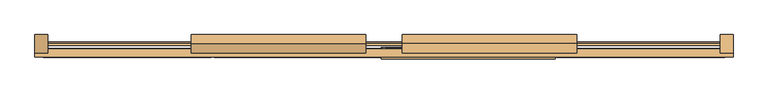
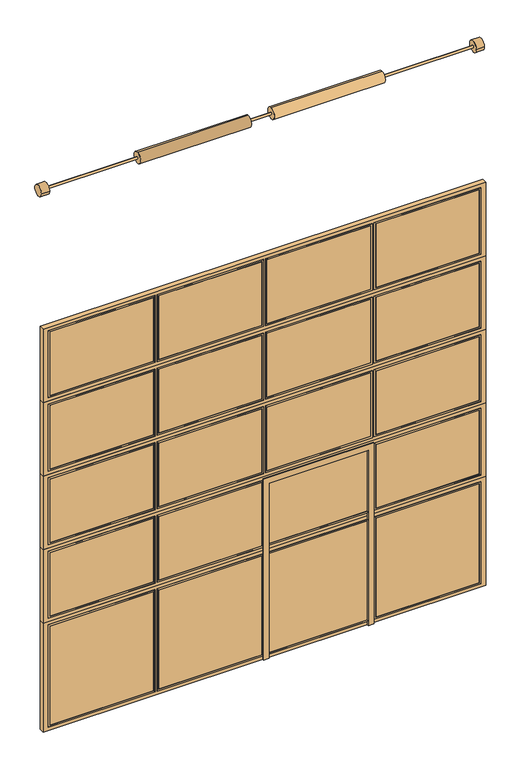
"""IFC4 building model written with IfcOpenShell, lengths in millimetres: door geometry, Vrata Nassau 9000G : Vrata Nassau 9000G."""

from ifc_helpers import new_model, si_unit, point, frame, frame_2d, origin, place, context, project, spatial, polyline, circle_curve, trimmed, segment, composite_curve, outline, extrude, faceted_brep, source, transform, mapped, element, save


def door_389f7659(model_context):
    return source(origin(), model_context, "Body", "SolidModel", [
        extrude(outline(polyline([(1660.0, 944.1666667), (1660.0, -15.8333333), (0.0, -15.8333333), (0.0, 34.1666667), (1610.0, 34.1666667), (1610.0, 894.1666667), (0.0, 894.1666667), (0.0, 944.1666667), (1660.0, 944.1666667)])), frame((0.0, 212.5, 0.0), z_axis=(0.0, 1.0, 0.0), x_axis=(0.0, 0.0, 1.0)), (0.0, 0.0, 1.0), 10.0),
        extrude(outline(polyline([(0.0, -15.8333333), (0.0, 34.1666667), (1610.0, 34.1666667), (1610.0, 894.1666667), (0.0, 894.1666667), (0.0, 944.1666667), (1660.0, 944.1666667), (1660.0, -15.8333333), (0.0, -15.8333333)])), frame((0.0, 266.5, 0.0), z_axis=(0.0, 1.0, 0.0), x_axis=(0.0, 0.0, 1.0)), (0.0, 0.0, 1.0), 10.0),
        extrude(outline(polyline([(921.1111111, 230.5), (921.1111111, 225.5), (22.7777778, 225.5), (22.7777778, 230.5), (921.1111111, 230.5)])), frame((0.0, 0.0, 3070.0), z_axis=(0.0, 0.0, 1.0), x_axis=(1.0, 0.0, 0.0)), (0.0, 0.0, 1.0), 585.0),
        faceted_brep([(12.7777778, 225.5, 3060.0), (12.7777778, 225.5, 3665.0), (12.7777778, 269.5, 3665.0), (12.7777778, 269.5, 3060.0), (7.7777778, 223.5, 3055.0), (7.7777778, 223.5, 3670.0), (7.7777778, 225.5, 3670.0), (7.7777778, 225.5, 3055.0), (22.7777778, 271.5, 3070.0), (22.7777778, 271.5, 3655.0), (22.7777778, 223.5, 3655.0), (22.7777778, 223.5, 3070.0), (7.7777778, 269.5, 3055.0), (7.7777778, 269.5, 3670.0), (7.7777778, 271.5, 3670.0), (7.7777778, 271.5, 3055.0), (931.1111111, 225.5, 3665.0), (931.1111111, 269.5, 3665.0), (936.1111111, 223.5, 3670.0), (936.1111111, 225.5, 3670.0), (921.1111111, 271.5, 3655.0), (921.1111111, 223.5, 3655.0), (936.1111111, 269.5, 3670.0), (936.1111111, 271.5, 3670.0), (931.1111111, 225.5, 3060.0), (931.1111111, 269.5, 3060.0), (936.1111111, 223.5, 3055.0), (936.1111111, 225.5, 3055.0), (921.1111111, 271.5, 3070.0), (921.1111111, 223.5, 3070.0), (936.1111111, 269.5, 3055.0), (936.1111111, 271.5, 3055.0)], [[[0, 1, 2, 3]], [[4, 5, 6, 7]], [[8, 9, 10, 11]], [[12, 13, 14, 15]], [[1, 16, 17, 2]], [[5, 18, 19, 6]], [[9, 20, 21, 10]], [[13, 22, 23, 14]], [[16, 24, 25, 17]], [[18, 26, 27, 19]], [[20, 28, 29, 21]], [[22, 30, 31, 23]], [[13, 12, 30, 22], [3, 2, 17, 25]], [[24, 0, 3, 25]], [[7, 6, 19, 27], [1, 0, 24, 16]], [[26, 4, 7, 27]], [[5, 4, 26, 18], [11, 10, 21, 29]], [[28, 8, 11, 29]], [[15, 14, 23, 31], [9, 8, 28, 20]], [[30, 12, 15, 31]]]),
        extrude(outline(polyline([(-22.7777778, 230.5), (-22.7777778, 225.5), (-921.1111111, 225.5), (-921.1111111, 230.5), (-22.7777778, 230.5)])), frame((0.0, 0.0, 3070.0), z_axis=(0.0, 0.0, 1.0), x_axis=(1.0, 0.0, 0.0)), (0.0, 0.0, 1.0), 585.0),
        faceted_brep([(-931.1111111, 225.5, 3060.0), (-931.1111111, 225.5, 3665.0), (-931.1111111, 269.5, 3665.0), (-931.1111111, 269.5, 3060.0), (-936.1111111, 223.5, 3055.0), (-936.1111111, 223.5, 3670.0), (-936.1111111, 225.5, 3670.0), (-936.1111111, 225.5, 3055.0), (-921.1111111, 271.5, 3070.0), (-921.1111111, 271.5, 3655.0), (-921.1111111, 223.5, 3655.0), (-921.1111111, 223.5, 3070.0), (-936.1111111, 269.5, 3055.0), (-936.1111111, 269.5, 3670.0), (-936.1111111, 271.5, 3670.0), (-936.1111111, 271.5, 3055.0), (-12.7777778, 225.5, 3665.0), (-12.7777778, 269.5, 3665.0), (-7.7777778, 223.5, 3670.0), (-7.7777778, 225.5, 3670.0), (-22.7777778, 271.5, 3655.0), (-22.7777778, 223.5, 3655.0), (-7.7777778, 269.5, 3670.0), (-7.7777778, 271.5, 3670.0), (-12.7777778, 225.5, 3060.0), (-12.7777778, 269.5, 3060.0), (-7.7777778, 223.5, 3055.0), (-7.7777778, 225.5, 3055.0), (-22.7777778, 271.5, 3070.0), (-22.7777778, 223.5, 3070.0), (-7.7777778, 269.5, 3055.0), (-7.7777778, 271.5, 3055.0)], [[[0, 1, 2, 3]], [[4, 5, 6, 7]], [[8, 9, 10, 11]], [[12, 13, 14, 15]], [[1, 16, 17, 2]], [[5, 18, 19, 6]], [[9, 20, 21, 10]], [[13, 22, 23, 14]], [[16, 24, 25, 17]], [[18, 26, 27, 19]], [[20, 28, 29, 21]], [[22, 30, 31, 23]], [[13, 12, 30, 22], [3, 2, 17, 25]], [[24, 0, 3, 25]], [[7, 6, 19, 27], [1, 0, 24, 16]], [[26, 4, 7, 27]], [[5, 4, 26, 18], [11, 10, 21, 29]], [[28, 8, 11, 29]], [[15, 14, 23, 31], [9, 8, 28, 20]], [[30, 12, 15, 31]]]),
        extrude(outline(polyline([(1865.0, 230.5), (1865.0, 225.5), (966.6666667, 225.5), (966.6666667, 230.5), (1865.0, 230.5)])), frame((0.0, 0.0, 3070.0), z_axis=(0.0, 0.0, 1.0), x_axis=(1.0, 0.0, 0.0)), (0.0, 0.0, 1.0), 585.0),
        faceted_brep([(956.6666667, 225.5, 3060.0), (956.6666667, 225.5, 3665.0), (956.6666667, 269.5, 3665.0), (956.6666667, 269.5, 3060.0), (951.6666667, 223.5, 3055.0), (951.6666667, 223.5, 3670.0), (951.6666667, 225.5, 3670.0), (951.6666667, 225.5, 3055.0), (966.6666667, 271.5, 3070.0), (966.6666667, 271.5, 3655.0), (966.6666667, 223.5, 3655.0), (966.6666667, 223.5, 3070.0), (951.6666667, 269.5, 3055.0), (951.6666667, 269.5, 3670.0), (951.6666667, 271.5, 3670.0), (951.6666667, 271.5, 3055.0), (1875.0, 225.5, 3665.0), (1875.0, 269.5, 3665.0), (1880.0, 223.5, 3670.0), (1880.0, 225.5, 3670.0), (1865.0, 271.5, 3655.0), (1865.0, 223.5, 3655.0), (1880.0, 269.5, 3670.0), (1880.0, 271.5, 3670.0), (1875.0, 225.5, 3060.0), (1875.0, 269.5, 3060.0), (1880.0, 223.5, 3055.0), (1880.0, 225.5, 3055.0), (1865.0, 271.5, 3070.0), (1865.0, 223.5, 3070.0), (1880.0, 269.5, 3055.0), (1880.0, 271.5, 3055.0)], [[[0, 1, 2, 3]], [[4, 5, 6, 7]], [[8, 9, 10, 11]], [[12, 13, 14, 15]], [[1, 16, 17, 2]], [[5, 18, 19, 6]], [[9, 20, 21, 10]], [[13, 22, 23, 14]], [[16, 24, 25, 17]], [[18, 26, 27, 19]], [[20, 28, 29, 21]], [[22, 30, 31, 23]], [[13, 12, 30, 22], [3, 2, 17, 25]], [[24, 0, 3, 25]], [[7, 6, 19, 27], [1, 0, 24, 16]], [[26, 4, 7, 27]], [[5, 4, 26, 18], [11, 10, 21, 29]], [[28, 8, 11, 29]], [[15, 14, 23, 31], [9, 8, 28, 20]], [[30, 12, 15, 31]]]),
        extrude(outline(polyline([(-966.6666667, 230.5), (-966.6666667, 225.5), (-1865.0, 225.5), (-1865.0, 230.5), (-966.6666667, 230.5)])), frame((0.0, 0.0, 3070.0), z_axis=(0.0, 0.0, 1.0), x_axis=(1.0, 0.0, 0.0)), (0.0, 0.0, 1.0), 585.0),
        faceted_brep([(-1875.0, 225.5, 3060.0), (-1875.0, 225.5, 3665.0), (-1875.0, 269.5, 3665.0), (-1875.0, 269.5, 3060.0), (-1880.0, 223.5, 3055.0), (-1880.0, 223.5, 3670.0), (-1880.0, 225.5, 3670.0), (-1880.0, 225.5, 3055.0), (-1865.0, 271.5, 3070.0), (-1865.0, 271.5, 3655.0), (-1865.0, 223.5, 3655.0), (-1865.0, 223.5, 3070.0), (-1880.0, 269.5, 3055.0), (-1880.0, 269.5, 3670.0), (-1880.0, 271.5, 3670.0), (-1880.0, 271.5, 3055.0), (-956.6666667, 225.5, 3665.0), (-956.6666667, 269.5, 3665.0), (-951.6666667, 223.5, 3670.0), (-951.6666667, 225.5, 3670.0), (-966.6666667, 271.5, 3655.0), (-966.6666667, 223.5, 3655.0), (-951.6666667, 269.5, 3670.0), (-951.6666667, 271.5, 3670.0), (-956.6666667, 225.5, 3060.0), (-956.6666667, 269.5, 3060.0), (-951.6666667, 223.5, 3055.0), (-951.6666667, 225.5, 3055.0), (-966.6666667, 271.5, 3070.0), (-966.6666667, 223.5, 3070.0), (-951.6666667, 269.5, 3055.0), (-951.6666667, 271.5, 3055.0)], [[[0, 1, 2, 3]], [[4, 5, 6, 7]], [[8, 9, 10, 11]], [[12, 13, 14, 15]], [[1, 16, 17, 2]], [[5, 18, 19, 6]], [[9, 20, 21, 10]], [[13, 22, 23, 14]], [[16, 24, 25, 17]], [[18, 26, 27, 19]], [[20, 28, 29, 21]], [[22, 30, 31, 23]], [[13, 12, 30, 22], [3, 2, 17, 25]], [[24, 0, 3, 25]], [[7, 6, 19, 27], [1, 0, 24, 16]], [[26, 4, 7, 27]], [[5, 4, 26, 18], [11, 10, 21, 29]], [[28, 8, 11, 29]], [[15, 14, 23, 31], [9, 8, 28, 20]], [[30, 12, 15, 31]]]),
        extrude(outline(polyline([(3025.0, -1925.0), (3025.0, 1925.0), (3700.0, 1925.0), (3700.0, -1925.0), (3025.0, -1925.0)]), holes=[polyline([(3667.5, 1875.0), (3060.0, 1875.0), (3060.0, 956.6666667), (3667.5, 956.6666667), (3667.5, 1875.0)]), polyline([(3667.5, -956.6666667), (3060.0, -956.6666667), (3060.0, -1875.0), (3667.5, -1875.0), (3667.5, -956.6666667)]), polyline([(3667.5, -12.7777778), (3060.0, -12.7777778), (3060.0, -931.1111111), (3667.5, -931.1111111), (3667.5, -12.7777778)]), polyline([(3667.5, 931.1111111), (3060.0, 931.1111111), (3060.0, 12.7777778), (3667.5, 12.7777778), (3667.5, 931.1111111)])]), frame((0.0, 225.5, 0.0), z_axis=(0.0, 1.0, 0.0), x_axis=(0.0, 0.0, 1.0)), (0.0, 0.0, 1.0), 44.0),
        extrude(outline(polyline([(921.1111111, 230.5), (921.1111111, 225.5), (22.7777778, 225.5), (22.7777778, 230.5), (921.1111111, 230.5)])), frame((0.0, 0.0, 2395.0), z_axis=(0.0, 0.0, 1.0), x_axis=(1.0, 0.0, 0.0)), (0.0, 0.0, 1.0), 585.0),
        faceted_brep([(12.7777778, 225.5, 2385.0), (12.7777778, 225.5, 2990.0), (12.7777778, 269.5, 2990.0), (12.7777778, 269.5, 2385.0), (7.7777778, 223.5, 2380.0), (7.7777778, 223.5, 2995.0), (7.7777778, 225.5, 2995.0), (7.7777778, 225.5, 2380.0), (22.7777778, 271.5, 2395.0), (22.7777778, 271.5, 2980.0), (22.7777778, 223.5, 2980.0), (22.7777778, 223.5, 2395.0), (7.7777778, 269.5, 2380.0), (7.7777778, 269.5, 2995.0), (7.7777778, 271.5, 2995.0), (7.7777778, 271.5, 2380.0), (931.1111111, 225.5, 2990.0), (931.1111111, 269.5, 2990.0), (936.1111111, 223.5, 2995.0), (936.1111111, 225.5, 2995.0), (921.1111111, 271.5, 2980.0), (921.1111111, 223.5, 2980.0), (936.1111111, 269.5, 2995.0), (936.1111111, 271.5, 2995.0), (931.1111111, 225.5, 2385.0), (931.1111111, 269.5, 2385.0), (936.1111111, 223.5, 2380.0), (936.1111111, 225.5, 2380.0), (921.1111111, 271.5, 2395.0), (921.1111111, 223.5, 2395.0), (936.1111111, 269.5, 2380.0), (936.1111111, 271.5, 2380.0)], [[[0, 1, 2, 3]], [[4, 5, 6, 7]], [[8, 9, 10, 11]], [[12, 13, 14, 15]], [[1, 16, 17, 2]], [[5, 18, 19, 6]], [[9, 20, 21, 10]], [[13, 22, 23, 14]], [[16, 24, 25, 17]], [[18, 26, 27, 19]], [[20, 28, 29, 21]], [[22, 30, 31, 23]], [[13, 12, 30, 22], [3, 2, 17, 25]], [[24, 0, 3, 25]], [[7, 6, 19, 27], [1, 0, 24, 16]], [[26, 4, 7, 27]], [[5, 4, 26, 18], [11, 10, 21, 29]], [[28, 8, 11, 29]], [[15, 14, 23, 31], [9, 8, 28, 20]], [[30, 12, 15, 31]]]),
        extrude(outline(polyline([(-22.7777778, 230.5), (-22.7777778, 225.5), (-921.1111111, 225.5), (-921.1111111, 230.5), (-22.7777778, 230.5)])), frame((0.0, 0.0, 2395.0), z_axis=(0.0, 0.0, 1.0), x_axis=(1.0, 0.0, 0.0)), (0.0, 0.0, 1.0), 585.0),
        faceted_brep([(-931.1111111, 225.5, 2385.0), (-931.1111111, 225.5, 2990.0), (-931.1111111, 269.5, 2990.0), (-931.1111111, 269.5, 2385.0), (-936.1111111, 223.5, 2380.0), (-936.1111111, 223.5, 2995.0), (-936.1111111, 225.5, 2995.0), (-936.1111111, 225.5, 2380.0), (-921.1111111, 271.5, 2395.0), (-921.1111111, 271.5, 2980.0), (-921.1111111, 223.5, 2980.0), (-921.1111111, 223.5, 2395.0), (-936.1111111, 269.5, 2380.0), (-936.1111111, 269.5, 2995.0), (-936.1111111, 271.5, 2995.0), (-936.1111111, 271.5, 2380.0), (-12.7777778, 225.5, 2990.0), (-12.7777778, 269.5, 2990.0), (-7.7777778, 223.5, 2995.0), (-7.7777778, 225.5, 2995.0), (-22.7777778, 271.5, 2980.0), (-22.7777778, 223.5, 2980.0), (-7.7777778, 269.5, 2995.0), (-7.7777778, 271.5, 2995.0), (-12.7777778, 225.5, 2385.0), (-12.7777778, 269.5, 2385.0), (-7.7777778, 223.5, 2380.0), (-7.7777778, 225.5, 2380.0), (-22.7777778, 271.5, 2395.0), (-22.7777778, 223.5, 2395.0), (-7.7777778, 269.5, 2380.0), (-7.7777778, 271.5, 2380.0)], [[[0, 1, 2, 3]], [[4, 5, 6, 7]], [[8, 9, 10, 11]], [[12, 13, 14, 15]], [[1, 16, 17, 2]], [[5, 18, 19, 6]], [[9, 20, 21, 10]], [[13, 22, 23, 14]], [[16, 24, 25, 17]], [[18, 26, 27, 19]], [[20, 28, 29, 21]], [[22, 30, 31, 23]], [[13, 12, 30, 22], [3, 2, 17, 25]], [[24, 0, 3, 25]], [[7, 6, 19, 27], [1, 0, 24, 16]], [[26, 4, 7, 27]], [[5, 4, 26, 18], [11, 10, 21, 29]], [[28, 8, 11, 29]], [[15, 14, 23, 31], [9, 8, 28, 20]], [[30, 12, 15, 31]]]),
        extrude(outline(polyline([(1865.0, 230.5), (1865.0, 225.5), (966.6666667, 225.5), (966.6666667, 230.5), (1865.0, 230.5)])), frame((0.0, 0.0, 2395.0), z_axis=(0.0, 0.0, 1.0), x_axis=(1.0, 0.0, 0.0)), (0.0, 0.0, 1.0), 585.0),
        faceted_brep([(956.6666667, 225.5, 2385.0), (956.6666667, 225.5, 2990.0), (956.6666667, 269.5, 2990.0), (956.6666667, 269.5, 2385.0), (951.6666667, 223.5, 2380.0), (951.6666667, 223.5, 2995.0), (951.6666667, 225.5, 2995.0), (951.6666667, 225.5, 2380.0), (966.6666667, 271.5, 2395.0), (966.6666667, 271.5, 2980.0), (966.6666667, 223.5, 2980.0), (966.6666667, 223.5, 2395.0), (951.6666667, 269.5, 2380.0), (951.6666667, 269.5, 2995.0), (951.6666667, 271.5, 2995.0), (951.6666667, 271.5, 2380.0), (1875.0, 225.5, 2990.0), (1875.0, 269.5, 2990.0), (1880.0, 223.5, 2995.0), (1880.0, 225.5, 2995.0), (1865.0, 271.5, 2980.0), (1865.0, 223.5, 2980.0), (1880.0, 269.5, 2995.0), (1880.0, 271.5, 2995.0), (1875.0, 225.5, 2385.0), (1875.0, 269.5, 2385.0), (1880.0, 223.5, 2380.0), (1880.0, 225.5, 2380.0), (1865.0, 271.5, 2395.0), (1865.0, 223.5, 2395.0), (1880.0, 269.5, 2380.0), (1880.0, 271.5, 2380.0)], [[[0, 1, 2, 3]], [[4, 5, 6, 7]], [[8, 9, 10, 11]], [[12, 13, 14, 15]], [[1, 16, 17, 2]], [[5, 18, 19, 6]], [[9, 20, 21, 10]], [[13, 22, 23, 14]], [[16, 24, 25, 17]], [[18, 26, 27, 19]], [[20, 28, 29, 21]], [[22, 30, 31, 23]], [[13, 12, 30, 22], [3, 2, 17, 25]], [[24, 0, 3, 25]], [[7, 6, 19, 27], [1, 0, 24, 16]], [[26, 4, 7, 27]], [[5, 4, 26, 18], [11, 10, 21, 29]], [[28, 8, 11, 29]], [[15, 14, 23, 31], [9, 8, 28, 20]], [[30, 12, 15, 31]]]),
        extrude(outline(polyline([(-966.6666667, 230.5), (-966.6666667, 225.5), (-1865.0, 225.5), (-1865.0, 230.5), (-966.6666667, 230.5)])), frame((0.0, 0.0, 2395.0), z_axis=(0.0, 0.0, 1.0), x_axis=(1.0, 0.0, 0.0)), (0.0, 0.0, 1.0), 585.0),
        faceted_brep([(-1875.0, 225.5, 2385.0), (-1875.0, 225.5, 2990.0), (-1875.0, 269.5, 2990.0), (-1875.0, 269.5, 2385.0), (-1880.0, 223.5, 2380.0), (-1880.0, 223.5, 2995.0), (-1880.0, 225.5, 2995.0), (-1880.0, 225.5, 2380.0), (-1865.0, 271.5, 2395.0), (-1865.0, 271.5, 2980.0), (-1865.0, 223.5, 2980.0), (-1865.0, 223.5, 2395.0), (-1880.0, 269.5, 2380.0), (-1880.0, 269.5, 2995.0), (-1880.0, 271.5, 2995.0), (-1880.0, 271.5, 2380.0), (-956.6666667, 225.5, 2990.0), (-956.6666667, 269.5, 2990.0), (-951.6666667, 223.5, 2995.0), (-951.6666667, 225.5, 2995.0), (-966.6666667, 271.5, 2980.0), (-966.6666667, 223.5, 2980.0), (-951.6666667, 269.5, 2995.0), (-951.6666667, 271.5, 2995.0), (-956.6666667, 225.5, 2385.0), (-956.6666667, 269.5, 2385.0), (-951.6666667, 223.5, 2380.0), (-951.6666667, 225.5, 2380.0), (-966.6666667, 271.5, 2395.0), (-966.6666667, 223.5, 2395.0), (-951.6666667, 269.5, 2380.0), (-951.6666667, 271.5, 2380.0)], [[[0, 1, 2, 3]], [[4, 5, 6, 7]], [[8, 9, 10, 11]], [[12, 13, 14, 15]], [[1, 16, 17, 2]], [[5, 18, 19, 6]], [[9, 20, 21, 10]], [[13, 22, 23, 14]], [[16, 24, 25, 17]], [[18, 26, 27, 19]], [[20, 28, 29, 21]], [[22, 30, 31, 23]], [[13, 12, 30, 22], [3, 2, 17, 25]], [[24, 0, 3, 25]], [[7, 6, 19, 27], [1, 0, 24, 16]], [[26, 4, 7, 27]], [[5, 4, 26, 18], [11, 10, 21, 29]], [[28, 8, 11, 29]], [[15, 14, 23, 31], [9, 8, 28, 20]], [[30, 12, 15, 31]]]),
        extrude(outline(polyline([(2350.0, -1925.0), (2350.0, 1925.0), (3025.0, 1925.0), (3025.0, -1925.0), (2350.0, -1925.0)]), holes=[polyline([(2992.5, 1875.0), (2385.0, 1875.0), (2385.0, 956.6666667), (2992.5, 956.6666667), (2992.5, 1875.0)]), polyline([(2992.5, -956.6666667), (2385.0, -956.6666667), (2385.0, -1875.0), (2992.5, -1875.0), (2992.5, -956.6666667)]), polyline([(2992.5, -12.7777778), (2385.0, -12.7777778), (2385.0, -931.1111111), (2992.5, -931.1111111), (2992.5, -12.7777778)]), polyline([(2992.5, 931.1111111), (2385.0, 931.1111111), (2385.0, 12.7777778), (2992.5, 12.7777778), (2992.5, 931.1111111)])]), frame((0.0, 225.5, 0.0), z_axis=(0.0, 1.0, 0.0), x_axis=(0.0, 0.0, 1.0)), (0.0, 0.0, 1.0), 44.0),
        extrude(outline(polyline([(921.1111111, 230.5), (921.1111111, 225.5), (22.7777778, 225.5), (22.7777778, 230.5), (921.1111111, 230.5)])), frame((0.0, 0.0, 1720.0), z_axis=(0.0, 0.0, 1.0), x_axis=(1.0, 0.0, 0.0)), (0.0, 0.0, 1.0), 585.0),
        faceted_brep([(12.7777778, 225.5, 1710.0), (12.7777778, 225.5, 2315.0), (12.7777778, 269.5, 2315.0), (12.7777778, 269.5, 1710.0), (7.7777778, 223.5, 1705.0), (7.7777778, 223.5, 2320.0), (7.7777778, 225.5, 2320.0), (7.7777778, 225.5, 1705.0), (22.7777778, 271.5, 1720.0), (22.7777778, 271.5, 2305.0), (22.7777778, 223.5, 2305.0), (22.7777778, 223.5, 1720.0), (7.7777778, 269.5, 1705.0), (7.7777778, 269.5, 2320.0), (7.7777778, 271.5, 2320.0), (7.7777778, 271.5, 1705.0), (931.1111111, 225.5, 2315.0), (931.1111111, 269.5, 2315.0), (936.1111111, 223.5, 2320.0), (936.1111111, 225.5, 2320.0), (921.1111111, 271.5, 2305.0), (921.1111111, 223.5, 2305.0), (936.1111111, 269.5, 2320.0), (936.1111111, 271.5, 2320.0), (931.1111111, 225.5, 1710.0), (931.1111111, 269.5, 1710.0), (936.1111111, 223.5, 1705.0), (936.1111111, 225.5, 1705.0), (921.1111111, 271.5, 1720.0), (921.1111111, 223.5, 1720.0), (936.1111111, 269.5, 1705.0), (936.1111111, 271.5, 1705.0)], [[[0, 1, 2, 3]], [[4, 5, 6, 7]], [[8, 9, 10, 11]], [[12, 13, 14, 15]], [[1, 16, 17, 2]], [[5, 18, 19, 6]], [[9, 20, 21, 10]], [[13, 22, 23, 14]], [[16, 24, 25, 17]], [[18, 26, 27, 19]], [[20, 28, 29, 21]], [[22, 30, 31, 23]], [[13, 12, 30, 22], [3, 2, 17, 25]], [[24, 0, 3, 25]], [[7, 6, 19, 27], [1, 0, 24, 16]], [[26, 4, 7, 27]], [[5, 4, 26, 18], [11, 10, 21, 29]], [[28, 8, 11, 29]], [[15, 14, 23, 31], [9, 8, 28, 20]], [[30, 12, 15, 31]]]),
        extrude(outline(polyline([(-22.7777778, 230.5), (-22.7777778, 225.5), (-921.1111111, 225.5), (-921.1111111, 230.5), (-22.7777778, 230.5)])), frame((0.0, 0.0, 1720.0), z_axis=(0.0, 0.0, 1.0), x_axis=(1.0, 0.0, 0.0)), (0.0, 0.0, 1.0), 585.0),
        faceted_brep([(-931.1111111, 225.5, 1710.0), (-931.1111111, 225.5, 2315.0), (-931.1111111, 269.5, 2315.0), (-931.1111111, 269.5, 1710.0), (-936.1111111, 223.5, 1705.0), (-936.1111111, 223.5, 2320.0), (-936.1111111, 225.5, 2320.0), (-936.1111111, 225.5, 1705.0), (-921.1111111, 271.5, 1720.0), (-921.1111111, 271.5, 2305.0), (-921.1111111, 223.5, 2305.0), (-921.1111111, 223.5, 1720.0), (-936.1111111, 269.5, 1705.0), (-936.1111111, 269.5, 2320.0), (-936.1111111, 271.5, 2320.0), (-936.1111111, 271.5, 1705.0), (-12.7777778, 225.5, 2315.0), (-12.7777778, 269.5, 2315.0), (-7.7777778, 223.5, 2320.0), (-7.7777778, 225.5, 2320.0), (-22.7777778, 271.5, 2305.0), (-22.7777778, 223.5, 2305.0), (-7.7777778, 269.5, 2320.0), (-7.7777778, 271.5, 2320.0), (-12.7777778, 225.5, 1710.0), (-12.7777778, 269.5, 1710.0), (-7.7777778, 223.5, 1705.0), (-7.7777778, 225.5, 1705.0), (-22.7777778, 271.5, 1720.0), (-22.7777778, 223.5, 1720.0), (-7.7777778, 269.5, 1705.0), (-7.7777778, 271.5, 1705.0)], [[[0, 1, 2, 3]], [[4, 5, 6, 7]], [[8, 9, 10, 11]], [[12, 13, 14, 15]], [[1, 16, 17, 2]], [[5, 18, 19, 6]], [[9, 20, 21, 10]], [[13, 22, 23, 14]], [[16, 24, 25, 17]], [[18, 26, 27, 19]], [[20, 28, 29, 21]], [[22, 30, 31, 23]], [[13, 12, 30, 22], [3, 2, 17, 25]], [[24, 0, 3, 25]], [[7, 6, 19, 27], [1, 0, 24, 16]], [[26, 4, 7, 27]], [[5, 4, 26, 18], [11, 10, 21, 29]], [[28, 8, 11, 29]], [[15, 14, 23, 31], [9, 8, 28, 20]], [[30, 12, 15, 31]]]),
        extrude(outline(polyline([(1865.0, 230.5), (1865.0, 225.5), (966.6666667, 225.5), (966.6666667, 230.5), (1865.0, 230.5)])), frame((0.0, 0.0, 1720.0), z_axis=(0.0, 0.0, 1.0), x_axis=(1.0, 0.0, 0.0)), (0.0, 0.0, 1.0), 585.0),
        faceted_brep([(956.6666667, 225.5, 1710.0), (956.6666667, 225.5, 2315.0), (956.6666667, 269.5, 2315.0), (956.6666667, 269.5, 1710.0), (951.6666667, 223.5, 1705.0), (951.6666667, 223.5, 2320.0), (951.6666667, 225.5, 2320.0), (951.6666667, 225.5, 1705.0), (966.6666667, 271.5, 1720.0), (966.6666667, 271.5, 2305.0), (966.6666667, 223.5, 2305.0), (966.6666667, 223.5, 1720.0), (951.6666667, 269.5, 1705.0), (951.6666667, 269.5, 2320.0), (951.6666667, 271.5, 2320.0), (951.6666667, 271.5, 1705.0), (1875.0, 225.5, 2315.0), (1875.0, 269.5, 2315.0), (1880.0, 223.5, 2320.0), (1880.0, 225.5, 2320.0), (1865.0, 271.5, 2305.0), (1865.0, 223.5, 2305.0), (1880.0, 269.5, 2320.0), (1880.0, 271.5, 2320.0), (1875.0, 225.5, 1710.0), (1875.0, 269.5, 1710.0), (1880.0, 223.5, 1705.0), (1880.0, 225.5, 1705.0), (1865.0, 271.5, 1720.0), (1865.0, 223.5, 1720.0), (1880.0, 269.5, 1705.0), (1880.0, 271.5, 1705.0)], [[[0, 1, 2, 3]], [[4, 5, 6, 7]], [[8, 9, 10, 11]], [[12, 13, 14, 15]], [[1, 16, 17, 2]], [[5, 18, 19, 6]], [[9, 20, 21, 10]], [[13, 22, 23, 14]], [[16, 24, 25, 17]], [[18, 26, 27, 19]], [[20, 28, 29, 21]], [[22, 30, 31, 23]], [[13, 12, 30, 22], [3, 2, 17, 25]], [[24, 0, 3, 25]], [[7, 6, 19, 27], [1, 0, 24, 16]], [[26, 4, 7, 27]], [[5, 4, 26, 18], [11, 10, 21, 29]], [[28, 8, 11, 29]], [[15, 14, 23, 31], [9, 8, 28, 20]], [[30, 12, 15, 31]]]),
        extrude(outline(polyline([(-966.6666667, 230.5), (-966.6666667, 225.5), (-1865.0, 225.5), (-1865.0, 230.5), (-966.6666667, 230.5)])), frame((0.0, 0.0, 1720.0), z_axis=(0.0, 0.0, 1.0), x_axis=(1.0, 0.0, 0.0)), (0.0, 0.0, 1.0), 585.0),
        faceted_brep([(-1875.0, 225.5, 1710.0), (-1875.0, 225.5, 2315.0), (-1875.0, 269.5, 2315.0), (-1875.0, 269.5, 1710.0), (-1880.0, 223.5, 1705.0), (-1880.0, 223.5, 2320.0), (-1880.0, 225.5, 2320.0), (-1880.0, 225.5, 1705.0), (-1865.0, 271.5, 1720.0), (-1865.0, 271.5, 2305.0), (-1865.0, 223.5, 2305.0), (-1865.0, 223.5, 1720.0), (-1880.0, 269.5, 1705.0), (-1880.0, 269.5, 2320.0), (-1880.0, 271.5, 2320.0), (-1880.0, 271.5, 1705.0), (-956.6666667, 225.5, 2315.0), (-956.6666667, 269.5, 2315.0), (-951.6666667, 223.5, 2320.0), (-951.6666667, 225.5, 2320.0), (-966.6666667, 271.5, 2305.0), (-966.6666667, 223.5, 2305.0), (-951.6666667, 269.5, 2320.0), (-951.6666667, 271.5, 2320.0), (-956.6666667, 225.5, 1710.0), (-956.6666667, 269.5, 1710.0), (-951.6666667, 223.5, 1705.0), (-951.6666667, 225.5, 1705.0), (-966.6666667, 271.5, 1720.0), (-966.6666667, 223.5, 1720.0), (-951.6666667, 269.5, 1705.0), (-951.6666667, 271.5, 1705.0)], [[[0, 1, 2, 3]], [[4, 5, 6, 7]], [[8, 9, 10, 11]], [[12, 13, 14, 15]], [[1, 16, 17, 2]], [[5, 18, 19, 6]], [[9, 20, 21, 10]], [[13, 22, 23, 14]], [[16, 24, 25, 17]], [[18, 26, 27, 19]], [[20, 28, 29, 21]], [[22, 30, 31, 23]], [[13, 12, 30, 22], [3, 2, 17, 25]], [[24, 0, 3, 25]], [[7, 6, 19, 27], [1, 0, 24, 16]], [[26, 4, 7, 27]], [[5, 4, 26, 18], [11, 10, 21, 29]], [[28, 8, 11, 29]], [[15, 14, 23, 31], [9, 8, 28, 20]], [[30, 12, 15, 31]]]),
        extrude(outline(polyline([(1675.0, -1925.0), (1675.0, 1925.0), (2350.0, 1925.0), (2350.0, -1925.0), (1675.0, -1925.0)]), holes=[polyline([(2317.5, 1875.0), (1710.0, 1875.0), (1710.0, 956.6666667), (2317.5, 956.6666667), (2317.5, 1875.0)]), polyline([(2317.5, -956.6666667), (1710.0, -956.6666667), (1710.0, -1875.0), (2317.5, -1875.0), (2317.5, -956.6666667)]), polyline([(2317.5, -12.7777778), (1710.0, -12.7777778), (1710.0, -931.1111111), (2317.5, -931.1111111), (2317.5, -12.7777778)]), polyline([(2317.5, 931.1111111), (1710.0, 931.1111111), (1710.0, 12.7777778), (2317.5, 12.7777778), (2317.5, 931.1111111)])]), frame((0.0, 225.5, 0.0), z_axis=(0.0, 1.0, 0.0), x_axis=(0.0, 0.0, 1.0)), (0.0, 0.0, 1.0), 44.0),
        extrude(outline(polyline([(921.1111111, 230.5), (921.1111111, 225.5), (22.7777778, 225.5), (22.7777778, 230.5), (921.1111111, 230.5)])), frame((0.0, 0.0, 1045.0), z_axis=(0.0, 0.0, 1.0), x_axis=(1.0, 0.0, 0.0)), (0.0, 0.0, 1.0), 585.0),
        faceted_brep([(12.7777778, 225.5, 1035.0), (12.7777778, 225.5, 1640.0), (12.7777778, 269.5, 1640.0), (12.7777778, 269.5, 1035.0), (7.7777778, 223.5, 1030.0), (7.7777778, 223.5, 1645.0), (7.7777778, 225.5, 1645.0), (7.7777778, 225.5, 1030.0), (22.7777778, 271.5, 1045.0), (22.7777778, 271.5, 1630.0), (22.7777778, 223.5, 1630.0), (22.7777778, 223.5, 1045.0), (7.7777778, 269.5, 1030.0), (7.7777778, 269.5, 1645.0), (7.7777778, 271.5, 1645.0), (7.7777778, 271.5, 1030.0), (931.1111111, 225.5, 1640.0), (931.1111111, 269.5, 1640.0), (936.1111111, 223.5, 1645.0), (936.1111111, 225.5, 1645.0), (921.1111111, 271.5, 1630.0), (921.1111111, 223.5, 1630.0), (936.1111111, 269.5, 1645.0), (936.1111111, 271.5, 1645.0), (931.1111111, 225.5, 1035.0), (931.1111111, 269.5, 1035.0), (936.1111111, 223.5, 1030.0), (936.1111111, 225.5, 1030.0), (921.1111111, 271.5, 1045.0), (921.1111111, 223.5, 1045.0), (936.1111111, 269.5, 1030.0), (936.1111111, 271.5, 1030.0)], [[[0, 1, 2, 3]], [[4, 5, 6, 7]], [[8, 9, 10, 11]], [[12, 13, 14, 15]], [[1, 16, 17, 2]], [[5, 18, 19, 6]], [[9, 20, 21, 10]], [[13, 22, 23, 14]], [[16, 24, 25, 17]], [[18, 26, 27, 19]], [[20, 28, 29, 21]], [[22, 30, 31, 23]], [[13, 12, 30, 22], [3, 2, 17, 25]], [[24, 0, 3, 25]], [[7, 6, 19, 27], [1, 0, 24, 16]], [[26, 4, 7, 27]], [[5, 4, 26, 18], [11, 10, 21, 29]], [[28, 8, 11, 29]], [[15, 14, 23, 31], [9, 8, 28, 20]], [[30, 12, 15, 31]]]),
        extrude(outline(polyline([(-22.7777778, 230.5), (-22.7777778, 225.5), (-921.1111111, 225.5), (-921.1111111, 230.5), (-22.7777778, 230.5)])), frame((0.0, 0.0, 1045.0), z_axis=(0.0, 0.0, 1.0), x_axis=(1.0, 0.0, 0.0)), (0.0, 0.0, 1.0), 585.0),
        faceted_brep([(-931.1111111, 225.5, 1035.0), (-931.1111111, 225.5, 1640.0), (-931.1111111, 269.5, 1640.0), (-931.1111111, 269.5, 1035.0), (-936.1111111, 223.5, 1030.0), (-936.1111111, 223.5, 1645.0), (-936.1111111, 225.5, 1645.0), (-936.1111111, 225.5, 1030.0), (-921.1111111, 271.5, 1045.0), (-921.1111111, 271.5, 1630.0), (-921.1111111, 223.5, 1630.0), (-921.1111111, 223.5, 1045.0), (-936.1111111, 269.5, 1030.0), (-936.1111111, 269.5, 1645.0), (-936.1111111, 271.5, 1645.0), (-936.1111111, 271.5, 1030.0), (-12.7777778, 225.5, 1640.0), (-12.7777778, 269.5, 1640.0), (-7.7777778, 223.5, 1645.0), (-7.7777778, 225.5, 1645.0), (-22.7777778, 271.5, 1630.0), (-22.7777778, 223.5, 1630.0), (-7.7777778, 269.5, 1645.0), (-7.7777778, 271.5, 1645.0), (-12.7777778, 225.5, 1035.0), (-12.7777778, 269.5, 1035.0), (-7.7777778, 223.5, 1030.0), (-7.7777778, 225.5, 1030.0), (-22.7777778, 271.5, 1045.0), (-22.7777778, 223.5, 1045.0), (-7.7777778, 269.5, 1030.0), (-7.7777778, 271.5, 1030.0)], [[[0, 1, 2, 3]], [[4, 5, 6, 7]], [[8, 9, 10, 11]], [[12, 13, 14, 15]], [[1, 16, 17, 2]], [[5, 18, 19, 6]], [[9, 20, 21, 10]], [[13, 22, 23, 14]], [[16, 24, 25, 17]], [[18, 26, 27, 19]], [[20, 28, 29, 21]], [[22, 30, 31, 23]], [[13, 12, 30, 22], [3, 2, 17, 25]], [[24, 0, 3, 25]], [[7, 6, 19, 27], [1, 0, 24, 16]], [[26, 4, 7, 27]], [[5, 4, 26, 18], [11, 10, 21, 29]], [[28, 8, 11, 29]], [[15, 14, 23, 31], [9, 8, 28, 20]], [[30, 12, 15, 31]]]),
        extrude(outline(polyline([(1865.0, 230.5), (1865.0, 225.5), (966.6666667, 225.5), (966.6666667, 230.5), (1865.0, 230.5)])), frame((0.0, 0.0, 1045.0), z_axis=(0.0, 0.0, 1.0), x_axis=(1.0, 0.0, 0.0)), (0.0, 0.0, 1.0), 585.0),
        faceted_brep([(956.6666667, 225.5, 1035.0), (956.6666667, 225.5, 1640.0), (956.6666667, 269.5, 1640.0), (956.6666667, 269.5, 1035.0), (951.6666667, 223.5, 1030.0), (951.6666667, 223.5, 1645.0), (951.6666667, 225.5, 1645.0), (951.6666667, 225.5, 1030.0), (966.6666667, 271.5, 1045.0), (966.6666667, 271.5, 1630.0), (966.6666667, 223.5, 1630.0), (966.6666667, 223.5, 1045.0), (951.6666667, 269.5, 1030.0), (951.6666667, 269.5, 1645.0), (951.6666667, 271.5, 1645.0), (951.6666667, 271.5, 1030.0), (1875.0, 225.5, 1640.0), (1875.0, 269.5, 1640.0), (1880.0, 223.5, 1645.0), (1880.0, 225.5, 1645.0), (1865.0, 271.5, 1630.0), (1865.0, 223.5, 1630.0), (1880.0, 269.5, 1645.0), (1880.0, 271.5, 1645.0), (1875.0, 225.5, 1035.0), (1875.0, 269.5, 1035.0), (1880.0, 223.5, 1030.0), (1880.0, 225.5, 1030.0), (1865.0, 271.5, 1045.0), (1865.0, 223.5, 1045.0), (1880.0, 269.5, 1030.0), (1880.0, 271.5, 1030.0)], [[[0, 1, 2, 3]], [[4, 5, 6, 7]], [[8, 9, 10, 11]], [[12, 13, 14, 15]], [[1, 16, 17, 2]], [[5, 18, 19, 6]], [[9, 20, 21, 10]], [[13, 22, 23, 14]], [[16, 24, 25, 17]], [[18, 26, 27, 19]], [[20, 28, 29, 21]], [[22, 30, 31, 23]], [[13, 12, 30, 22], [3, 2, 17, 25]], [[24, 0, 3, 25]], [[7, 6, 19, 27], [1, 0, 24, 16]], [[26, 4, 7, 27]], [[5, 4, 26, 18], [11, 10, 21, 29]], [[28, 8, 11, 29]], [[15, 14, 23, 31], [9, 8, 28, 20]], [[30, 12, 15, 31]]]),
        extrude(outline(polyline([(-966.6666667, 230.5), (-966.6666667, 225.5), (-1865.0, 225.5), (-1865.0, 230.5), (-966.6666667, 230.5)])), frame((0.0, 0.0, 1045.0), z_axis=(0.0, 0.0, 1.0), x_axis=(1.0, 0.0, 0.0)), (0.0, 0.0, 1.0), 585.0),
        faceted_brep([(-1875.0, 225.5, 1035.0), (-1875.0, 225.5, 1640.0), (-1875.0, 269.5, 1640.0), (-1875.0, 269.5, 1035.0), (-1880.0, 223.5, 1030.0), (-1880.0, 223.5, 1645.0), (-1880.0, 225.5, 1645.0), (-1880.0, 225.5, 1030.0), (-1865.0, 271.5, 1045.0), (-1865.0, 271.5, 1630.0), (-1865.0, 223.5, 1630.0), (-1865.0, 223.5, 1045.0), (-1880.0, 269.5, 1030.0), (-1880.0, 269.5, 1645.0), (-1880.0, 271.5, 1645.0), (-1880.0, 271.5, 1030.0), (-956.6666667, 225.5, 1640.0), (-956.6666667, 269.5, 1640.0), (-951.6666667, 223.5, 1645.0), (-951.6666667, 225.5, 1645.0), (-966.6666667, 271.5, 1630.0), (-966.6666667, 223.5, 1630.0), (-951.6666667, 269.5, 1645.0), (-951.6666667, 271.5, 1645.0), (-956.6666667, 225.5, 1035.0), (-956.6666667, 269.5, 1035.0), (-951.6666667, 223.5, 1030.0), (-951.6666667, 225.5, 1030.0), (-966.6666667, 271.5, 1045.0), (-966.6666667, 223.5, 1045.0), (-951.6666667, 269.5, 1030.0), (-951.6666667, 271.5, 1030.0)], [[[0, 1, 2, 3]], [[4, 5, 6, 7]], [[8, 9, 10, 11]], [[12, 13, 14, 15]], [[1, 16, 17, 2]], [[5, 18, 19, 6]], [[9, 20, 21, 10]], [[13, 22, 23, 14]], [[16, 24, 25, 17]], [[18, 26, 27, 19]], [[20, 28, 29, 21]], [[22, 30, 31, 23]], [[13, 12, 30, 22], [3, 2, 17, 25]], [[24, 0, 3, 25]], [[7, 6, 19, 27], [1, 0, 24, 16]], [[26, 4, 7, 27]], [[5, 4, 26, 18], [11, 10, 21, 29]], [[28, 8, 11, 29]], [[15, 14, 23, 31], [9, 8, 28, 20]], [[30, 12, 15, 31]]]),
        extrude(outline(polyline([(1000.0, -1925.0), (1000.0, 1925.0), (1675.0, 1925.0), (1675.0, -1925.0), (1000.0, -1925.0)]), holes=[polyline([(1642.5, 1875.0), (1035.0, 1875.0), (1035.0, 956.6666667), (1642.5, 956.6666667), (1642.5, 1875.0)]), polyline([(1642.5, -956.6666667), (1035.0, -956.6666667), (1035.0, -1875.0), (1642.5, -1875.0), (1642.5, -956.6666667)]), polyline([(1642.5, -12.7777778), (1035.0, -12.7777778), (1035.0, -931.1111111), (1642.5, -931.1111111), (1642.5, -12.7777778)]), polyline([(1642.5, 931.1111111), (1035.0, 931.1111111), (1035.0, 12.7777778), (1642.5, 12.7777778), (1642.5, 931.1111111)])]), frame((0.0, 225.5, 0.0), z_axis=(0.0, 1.0, 0.0), x_axis=(0.0, 0.0, 1.0)), (0.0, 0.0, 1.0), 44.0),
        extrude(outline(polyline([(-22.7777778, 230.5), (-22.7777778, 225.5), (-921.1111111, 225.5), (-921.1111111, 230.5), (-22.7777778, 230.5)])), frame((0.0, 0.0, 45.0), z_axis=(0.0, 0.0, 1.0), x_axis=(1.0, 0.0, 0.0)), (0.0, 0.0, 1.0), 910.0),
        faceted_brep([(-931.1111111, 225.5, 35.0), (-931.1111111, 225.5, 965.0), (-931.1111111, 269.5, 965.0), (-931.1111111, 269.5, 35.0), (-936.1111111, 223.5, 30.0), (-936.1111111, 223.5, 970.0), (-936.1111111, 225.5, 970.0), (-936.1111111, 225.5, 30.0), (-921.1111111, 271.5, 45.0), (-921.1111111, 271.5, 955.0), (-921.1111111, 223.5, 955.0), (-921.1111111, 223.5, 45.0), (-936.1111111, 269.5, 30.0), (-936.1111111, 269.5, 970.0), (-936.1111111, 271.5, 970.0), (-936.1111111, 271.5, 30.0), (-12.7777778, 225.5, 965.0), (-12.7777778, 269.5, 965.0), (-7.7777778, 223.5, 970.0), (-7.7777778, 225.5, 970.0), (-22.7777778, 271.5, 955.0), (-22.7777778, 223.5, 955.0), (-7.7777778, 269.5, 970.0), (-7.7777778, 271.5, 970.0), (-12.7777778, 225.5, 35.0), (-12.7777778, 269.5, 35.0), (-7.7777778, 223.5, 30.0), (-7.7777778, 225.5, 30.0), (-22.7777778, 271.5, 45.0), (-22.7777778, 223.5, 45.0), (-7.7777778, 269.5, 30.0), (-7.7777778, 271.5, 30.0)], [[[0, 1, 2, 3]], [[4, 5, 6, 7]], [[8, 9, 10, 11]], [[12, 13, 14, 15]], [[1, 16, 17, 2]], [[5, 18, 19, 6]], [[9, 20, 21, 10]], [[13, 22, 23, 14]], [[16, 24, 25, 17]], [[18, 26, 27, 19]], [[20, 28, 29, 21]], [[22, 30, 31, 23]], [[13, 12, 30, 22], [3, 2, 17, 25]], [[24, 0, 3, 25]], [[7, 6, 19, 27], [1, 0, 24, 16]], [[26, 4, 7, 27]], [[5, 4, 26, 18], [11, 10, 21, 29]], [[28, 8, 11, 29]], [[15, 14, 23, 31], [9, 8, 28, 20]], [[30, 12, 15, 31]]]),
        extrude(outline(polyline([(921.1111111, 230.5), (921.1111111, 225.5), (22.7777778, 225.5), (22.7777778, 230.5), (921.1111111, 230.5)])), frame((0.0, 0.0, 45.0), z_axis=(0.0, 0.0, 1.0), x_axis=(1.0, 0.0, 0.0)), (0.0, 0.0, 1.0), 910.0),
        faceted_brep([(12.7777778, 225.5, 35.0), (12.7777778, 225.5, 965.0), (12.7777778, 269.5, 965.0), (12.7777778, 269.5, 35.0), (7.7777778, 223.5, 30.0), (7.7777778, 223.5, 970.0), (7.7777778, 225.5, 970.0), (7.7777778, 225.5, 30.0), (22.7777778, 271.5, 45.0), (22.7777778, 271.5, 955.0), (22.7777778, 223.5, 955.0), (22.7777778, 223.5, 45.0), (7.7777778, 269.5, 30.0), (7.7777778, 269.5, 970.0), (7.7777778, 271.5, 970.0), (7.7777778, 271.5, 30.0), (931.1111111, 225.5, 965.0), (931.1111111, 269.5, 965.0), (936.1111111, 223.5, 970.0), (936.1111111, 225.5, 970.0), (921.1111111, 271.5, 955.0), (921.1111111, 223.5, 955.0), (936.1111111, 269.5, 970.0), (936.1111111, 271.5, 970.0), (931.1111111, 225.5, 35.0), (931.1111111, 269.5, 35.0), (936.1111111, 223.5, 30.0), (936.1111111, 225.5, 30.0), (921.1111111, 271.5, 45.0), (921.1111111, 223.5, 45.0), (936.1111111, 269.5, 30.0), (936.1111111, 271.5, 30.0)], [[[0, 1, 2, 3]], [[4, 5, 6, 7]], [[8, 9, 10, 11]], [[12, 13, 14, 15]], [[1, 16, 17, 2]], [[5, 18, 19, 6]], [[9, 20, 21, 10]], [[13, 22, 23, 14]], [[16, 24, 25, 17]], [[18, 26, 27, 19]], [[20, 28, 29, 21]], [[22, 30, 31, 23]], [[13, 12, 30, 22], [3, 2, 17, 25]], [[24, 0, 3, 25]], [[7, 6, 19, 27], [1, 0, 24, 16]], [[26, 4, 7, 27]], [[5, 4, 26, 18], [11, 10, 21, 29]], [[28, 8, 11, 29]], [[15, 14, 23, 31], [9, 8, 28, 20]], [[30, 12, 15, 31]]]),
        extrude(outline(polyline([(-966.6666667, 230.5), (-966.6666667, 225.5), (-1865.0, 225.5), (-1865.0, 230.5), (-966.6666667, 230.5)])), frame((0.0, 0.0, 45.0), z_axis=(0.0, 0.0, 1.0), x_axis=(1.0, 0.0, 0.0)), (0.0, 0.0, 1.0), 910.0),
        faceted_brep([(-1875.0, 225.5, 35.0), (-1875.0, 225.5, 965.0), (-1875.0, 269.5, 965.0), (-1875.0, 269.5, 35.0), (-1880.0, 223.5, 30.0), (-1880.0, 223.5, 970.0), (-1880.0, 225.5, 970.0), (-1880.0, 225.5, 30.0), (-1865.0, 271.5, 45.0), (-1865.0, 271.5, 955.0), (-1865.0, 223.5, 955.0), (-1865.0, 223.5, 45.0), (-1880.0, 269.5, 30.0), (-1880.0, 269.5, 970.0), (-1880.0, 271.5, 970.0), (-1880.0, 271.5, 30.0), (-956.6666667, 225.5, 965.0), (-956.6666667, 269.5, 965.0), (-951.6666667, 223.5, 970.0), (-951.6666667, 225.5, 970.0), (-966.6666667, 271.5, 955.0), (-966.6666667, 223.5, 955.0), (-951.6666667, 269.5, 970.0), (-951.6666667, 271.5, 970.0), (-956.6666667, 225.5, 35.0), (-956.6666667, 269.5, 35.0), (-951.6666667, 223.5, 30.0), (-951.6666667, 225.5, 30.0), (-966.6666667, 271.5, 45.0), (-966.6666667, 223.5, 45.0), (-951.6666667, 269.5, 30.0), (-951.6666667, 271.5, 30.0)], [[[0, 1, 2, 3]], [[4, 5, 6, 7]], [[8, 9, 10, 11]], [[12, 13, 14, 15]], [[1, 16, 17, 2]], [[5, 18, 19, 6]], [[9, 20, 21, 10]], [[13, 22, 23, 14]], [[16, 24, 25, 17]], [[18, 26, 27, 19]], [[20, 28, 29, 21]], [[22, 30, 31, 23]], [[13, 12, 30, 22], [3, 2, 17, 25]], [[24, 0, 3, 25]], [[7, 6, 19, 27], [1, 0, 24, 16]], [[26, 4, 7, 27]], [[5, 4, 26, 18], [11, 10, 21, 29]], [[28, 8, 11, 29]], [[15, 14, 23, 31], [9, 8, 28, 20]], [[30, 12, 15, 31]]]),
        extrude(outline(polyline([(1865.0, 230.5), (1865.0, 225.5), (966.6666667, 225.5), (966.6666667, 230.5), (1865.0, 230.5)])), frame((0.0, 0.0, 45.0), z_axis=(0.0, 0.0, 1.0), x_axis=(1.0, 0.0, 0.0)), (0.0, 0.0, 1.0), 910.0),
        faceted_brep([(956.6666667, 225.5, 35.0), (956.6666667, 225.5, 965.0), (956.6666667, 269.5, 965.0), (956.6666667, 269.5, 35.0), (951.6666667, 223.5, 30.0), (951.6666667, 223.5, 970.0), (951.6666667, 225.5, 970.0), (951.6666667, 225.5, 30.0), (966.6666667, 271.5, 45.0), (966.6666667, 271.5, 955.0), (966.6666667, 223.5, 955.0), (966.6666667, 223.5, 45.0), (951.6666667, 269.5, 30.0), (951.6666667, 269.5, 970.0), (951.6666667, 271.5, 970.0), (951.6666667, 271.5, 30.0), (1875.0, 225.5, 965.0), (1875.0, 269.5, 965.0), (1880.0, 223.5, 970.0), (1880.0, 225.5, 970.0), (1865.0, 271.5, 955.0), (1865.0, 223.5, 955.0), (1880.0, 269.5, 970.0), (1880.0, 271.5, 970.0), (1875.0, 225.5, 35.0), (1875.0, 269.5, 35.0), (1880.0, 223.5, 30.0), (1880.0, 225.5, 30.0), (1865.0, 271.5, 45.0), (1865.0, 223.5, 45.0), (1880.0, 269.5, 30.0), (1880.0, 271.5, 30.0)], [[[0, 1, 2, 3]], [[4, 5, 6, 7]], [[8, 9, 10, 11]], [[12, 13, 14, 15]], [[1, 16, 17, 2]], [[5, 18, 19, 6]], [[9, 20, 21, 10]], [[13, 22, 23, 14]], [[16, 24, 25, 17]], [[18, 26, 27, 19]], [[20, 28, 29, 21]], [[22, 30, 31, 23]], [[13, 12, 30, 22], [3, 2, 17, 25]], [[24, 0, 3, 25]], [[7, 6, 19, 27], [1, 0, 24, 16]], [[26, 4, 7, 27]], [[5, 4, 26, 18], [11, 10, 21, 29]], [[28, 8, 11, 29]], [[15, 14, 23, 31], [9, 8, 28, 20]], [[30, 12, 15, 31]]]),
        extrude(outline(polyline([(0.0, -1925.0), (0.0, 1925.0), (1000.0, 1925.0), (1000.0, -1925.0), (0.0, -1925.0)]), holes=[polyline([(967.5, 1875.0), (35.0, 1875.0), (35.0, 956.6666667), (967.5, 956.6666667), (967.5, 1875.0)]), polyline([(967.5, -956.6666667), (35.0, -956.6666667), (35.0, -1875.0), (967.5, -1875.0), (967.5, -956.6666667)]), polyline([(967.5, -12.7777778), (35.0, -12.7777778), (35.0, -931.1111111), (967.5, -931.1111111), (967.5, -12.7777778)]), polyline([(967.5, 931.1111111), (35.0, 931.1111111), (35.0, 12.7777778), (967.5, 12.7777778), (967.5, 931.1111111)])]), frame((0.0, 225.5, 0.0), z_axis=(0.0, 1.0, 0.0), x_axis=(0.0, 0.0, 1.0)), (0.0, 0.0, 1.0), 44.0),
        extrude(outline(composite_curve([segment(trimmed(circle_curve(frame_2d((297.5, 4930.0)), 50.0), [point((297.5, 4880.0))], [point((297.5, 4980.0))], False, "CARTESIAN"), True, "CONTINUOUS"), segment(trimmed(circle_curve(frame_2d((297.5, 4930.0)), 50.0), [point((297.5, 4980.0))], [point((297.5, 4880.0))], False, "CARTESIAN"), True, "CONTINUOUS")], self_intersect=False)), frame((100.0, 0.0, 0.0), z_axis=(1.0, 0.0, 0.0), x_axis=(0.0, 1.0, 0.0)), (0.0, 0.0, 1.0), 962.5),
        extrude(outline(composite_curve([segment(trimmed(circle_curve(frame_2d((297.5, 4930.0)), 50.0), [point((297.5, 4880.0))], [point((297.5, 4980.0))], False, "CARTESIAN"), True, "CONTINUOUS"), segment(trimmed(circle_curve(frame_2d((297.5, 4930.0)), 50.0), [point((297.5, 4980.0))], [point((297.5, 4880.0))], False, "CARTESIAN"), True, "CONTINUOUS")], self_intersect=False)), frame((-1062.5, 0.0, 0.0), z_axis=(1.0, 0.0, 0.0), x_axis=(0.0, 1.0, 0.0)), (0.0, 0.0, 1.0), 962.5),
        extrude(outline(composite_curve([segment(trimmed(circle_curve(frame_2d((297.5, 4930.0)), 50.0), [point((347.5, 4930.0))], [point((247.5, 4930.0))], False, "CARTESIAN"), True, "CONTINUOUS"), segment(trimmed(circle_curve(frame_2d((297.5, 4930.0)), 50.0), [point((247.5, 4930.0))], [point((347.5, 4930.0))], False, "CARTESIAN"), True, "CONTINUOUS")], self_intersect=False)), frame((1855.0, 0.0, 0.0), z_axis=(1.0, 0.0, 0.0), x_axis=(0.0, 1.0, 0.0)), (0.0, 0.0, 1.0), 70.0),
        extrude(outline(composite_curve([segment(trimmed(circle_curve(frame_2d((297.5, 4930.0)), 50.0), [point((347.5, 4930.0))], [point((247.5, 4930.0))], False, "CARTESIAN"), True, "CONTINUOUS"), segment(trimmed(circle_curve(frame_2d((297.5, 4930.0)), 50.0), [point((247.5, 4930.0))], [point((347.5, 4930.0))], False, "CARTESIAN"), True, "CONTINUOUS")], self_intersect=False)), frame((-1925.0, 0.0, 0.0), z_axis=(1.0, 0.0, 0.0), x_axis=(0.0, 1.0, 0.0)), (0.0, 0.0, 1.0), 70.0),
        extrude(outline(composite_curve([segment(trimmed(circle_curve(frame_2d((297.5, 4930.0)), 10.0), [point((297.5, 4920.0))], [point((297.5, 4940.0))], False, "CARTESIAN"), True, "CONTINUOUS"), segment(trimmed(circle_curve(frame_2d((297.5, 4930.0)), 10.0), [point((297.5, 4940.0))], [point((297.5, 4920.0))], False, "CARTESIAN"), True, "CONTINUOUS")], self_intersect=False)), frame((-1855.0, 0.0, 0.0), z_axis=(1.0, 0.0, 0.0), x_axis=(0.0, 1.0, 0.0)), (0.0, 0.0, 1.0), 3710.0),
    ])


if __name__ == "__main__":
    model = new_model("IFC4")
    model_context = context("Model", 3, world=origin())
    ifc_project = project(units=[si_unit("LENGTHUNIT", "METRE", prefix="MILLI")], contexts=[model_context])
    site = spatial("IfcSite", under=ifc_project)
    building = spatial("IfcBuilding", under=site)
    placement = place(None, origin())
    door_shape = door_389f7659(model_context)
    element("IfcDoor", 1, ObjectType="Vrata Nassau 9000G : Vrata Nassau 9000G", at=placement, inside=building, context=model_context, shape_type="MappedRepresentation", body=[
        mapped(door_shape, transform((0.0, 0.0, 0.0), x_axis=(1.0, 0.0, 0.0), y_axis=(0.0, 1.0, 0.0), z_axis=(0.0, 0.0, 1.0))),
    ])
    save(model, "model.ifc")
